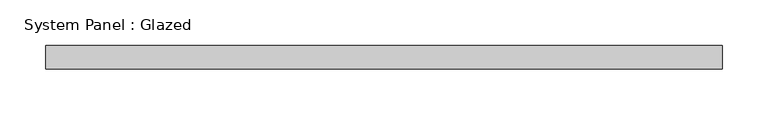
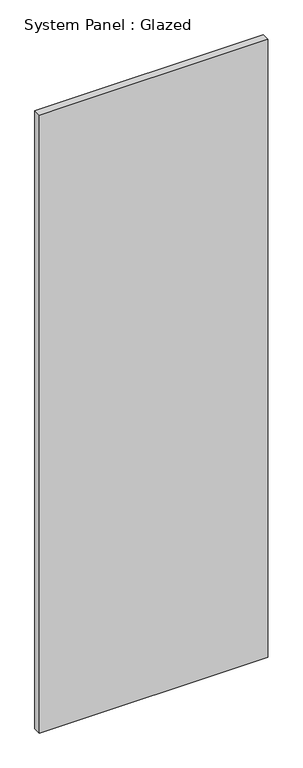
"""IFC4 building model written with IfcOpenShell, lengths in millimetres: plate geometry, System Panel : Glazed."""

from ifc_helpers import new_model, si_unit, origin, origin_with_axes, place, context, project, spatial, polyline, outline, extrude, source, transform, mapped, element, save


def system_panel_glazed_4739128b(model_context):
    return source(origin(), model_context, "Body", "SweptSolid", [
        extrude(outline(polyline([(368.5188475, 19.05), (-368.5188475, 19.05), (-368.5188475, 44.45), (368.5188475, 44.45), (368.5188475, 19.05)])), origin_with_axes(), (0.0, 0.0, 1.0), 2108.2),
    ])


if __name__ == "__main__":
    model = new_model("IFC4")
    model_context = context("Model", 3, world=origin())
    ifc_project = project(units=[si_unit("LENGTHUNIT", "METRE", prefix="MILLI")], contexts=[model_context])
    site = spatial("IfcSite", under=ifc_project)
    building = spatial("IfcBuilding", under=site)
    placement = place(None, origin())
    system_panel_glazed_shape = system_panel_glazed_4739128b(model_context)
    element("IfcPlate", 1, ObjectType="System Panel : Glazed", at=placement, inside=building, context=model_context, shape_type="MappedRepresentation", body=[
        mapped(system_panel_glazed_shape, transform((0.0, 0.0, 0.0), x_axis=(1.0, 0.0, 0.0), y_axis=(0.0, 1.0, 0.0), z_axis=(0.0, 0.0, 1.0))),
    ])
    save(model, "model.ifc")
